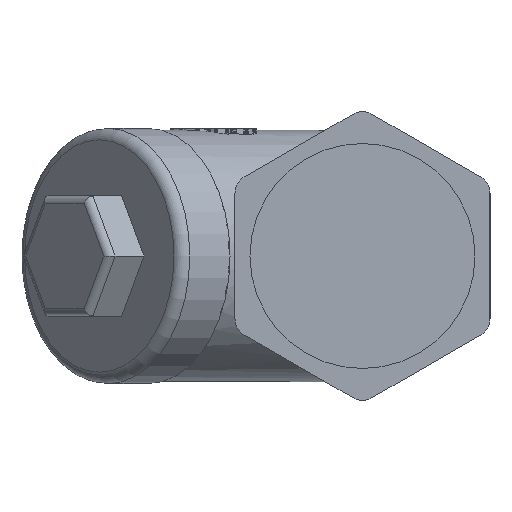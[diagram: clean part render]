
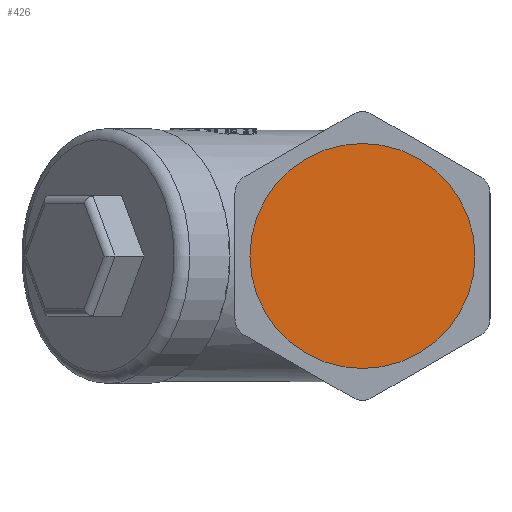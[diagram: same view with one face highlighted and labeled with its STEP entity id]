
A CAD part, left-side view. The second image highlights one B-rep face of the part: STEP entity #426.
In plain terms, the highlighted planar face has unit normal (-1, 0, 0).
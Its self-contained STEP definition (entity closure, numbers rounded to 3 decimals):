
#426=ADVANCED_FACE('',(#8326),#8328,.F.);
#8326=FACE_BOUND('',#8327,.T.);
#8327=EDGE_LOOP('',(#16575));
#8328=PLANE('',#8329);
#8329=AXIS2_PLACEMENT_3D('',#8330,#8331,#8332);
#8330=CARTESIAN_POINT('',(822.292,224.816,0.));
#8331=DIRECTION('',(1.,0.,0.));
#8332=DIRECTION('',(0.,0.,-1.));
#16575=ORIENTED_EDGE('',*,*,#21676,.T.);
#21676=EDGE_CURVE('',#25157,#25157,#25158,.T.);
#25157=VERTEX_POINT('',#32730);
#25158=CIRCLE('',#32731,30.);
#32730=CARTESIAN_POINT('',(822.292,194.816,0.));
#32731=AXIS2_PLACEMENT_3D('',#32732,#32733,#32734);
#32732=CARTESIAN_POINT('',(822.292,224.816,0.));
#32733=DIRECTION('',(-1.,0.,0.));
#32734=DIRECTION('',(0.,-1.,0.));
